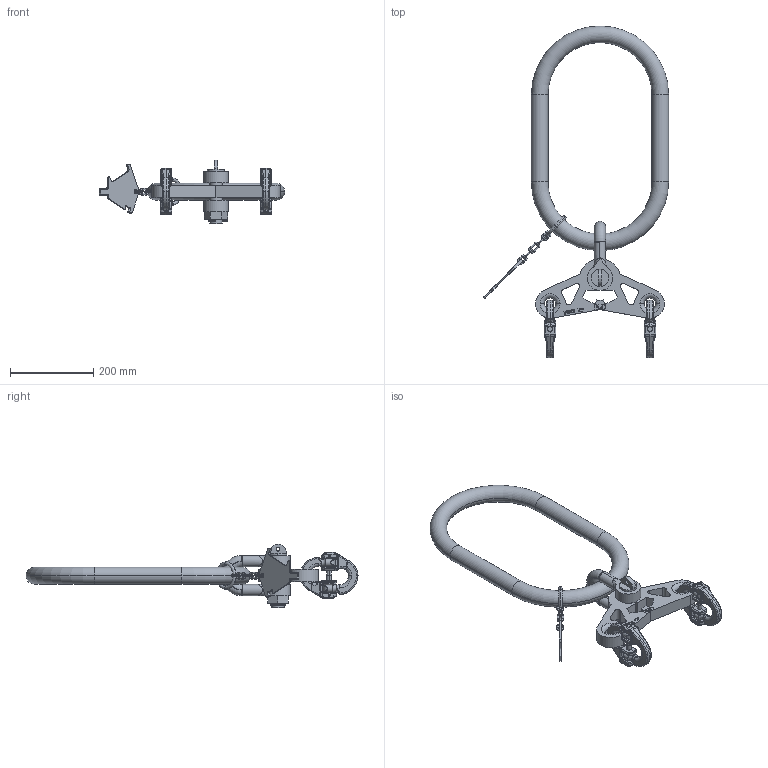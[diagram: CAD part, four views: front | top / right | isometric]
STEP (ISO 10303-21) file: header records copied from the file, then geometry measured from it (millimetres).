
FILE_DESCRIPTION((''),'2;1');
FILE_NAME('001-M34927-P-11_ASM','2019-01-24T',('anja.joas'),(''),'PRO/ENGINEER BY PARAMETRIC TECHNOLOGY CORPORATION, 2011490','PRO/ENGINEER BY PARAMETRIC TECHNOLOGY CORPORATION, 2011490','');
FILE_SCHEMA(('CONFIG_CONTROL_DESIGN'));
Length unit declared in the file: millimetre
Products named in the file (13): 001-M32082-P-3; 001-M31472-P-1; 001-M34797-P-1; 001-M34295-P-1; 001-M34295-P-2; 001-M34295-P-2_ASM; 001-M31128-V03; 001-M31558-P-1; 001-M31129-P-1; 001-M33743-001; 001-M31130-003_ASM; 001-M31558-P-1_ASM; 001-M34927-P-11_ASM
Assembly tree (16 placements, depth 4):
  001-M34927-P-11_ASM
    001-M32082-P-3
    001-M31472-P-1
    001-M34797-P-1
    001-M34295-P-2_ASM  x2
      001-M34295-P-1
      001-M34295-P-2
    001-M31128-V03
    001-M31558-P-1_ASM
      001-M31558-P-1
      001-M31129-P-1  x2
      001-M31130-003_ASM
        001-M33743-001  x3
Bounding box: 445.37 x 798.18 x 152.1 mm (x, y, z)
Volume: 3172236.1 mm3; surface area: 433244.8 mm2
Topology: 14 solids, 14 shells, 2593 faces, 6811 edges, 4301 vertices
Faces by surface type: plane 1577, cylinder 435, bspline 334, torus 175, cone 72
Entity records: 64263 total; most frequent: CARTESIAN_POINT 24391, ORIENTED_EDGE 8746, DIRECTION 7518, EDGE_CURVE 4373, VECTOR 3000, LINE 3000, VERTEX_POINT 2789, AXIS2_PLACEMENT_3D 2259
